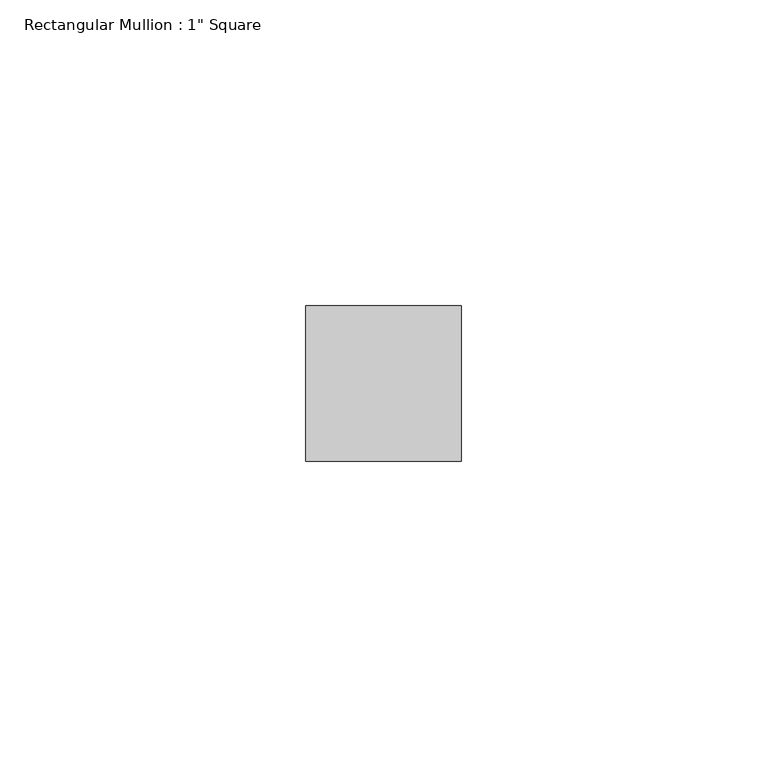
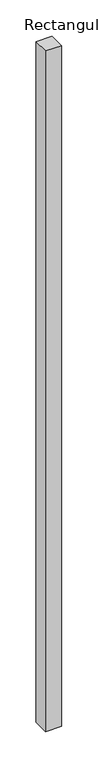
"""IFC4 building model written with IfcOpenShell, lengths in millimetres: member geometry."""

import ifcopenshell
import ifcopenshell.guid

model = None  # the IFC model being written
_history = None  # IfcOwnerHistory: only IFC2X3 demands one
_inside = {}  # id of a spatial element -> (the spatial element, [elements in it])
_under = {}  # id of a project, library or spatial element -> (it, [spatial elements below it])
_declared = {}  # id of a project -> (the project, [libraries it declares])
_typed = {}  # id of a type object -> (the type object, [elements of that type])
_made_of = {}  # id of a material, layer set ... -> (it, [elements and type objects made of it])


def new_model(schema):
    """Start an empty IFC model of exactly this schema.

    Asked for "IFC4X3", IfcOpenShell would pick the latest addendum, in which some entities
    have other attributes; the version numbers below select the first issue.
    IFC2X3 requires an IfcOwnerHistory on every rooted entity: one is made here for all.
    """
    global model, _history
    if schema == "IFC4X3":
        model = ifcopenshell.file(schema_version=(4, 3, 0, 0))
    else:
        model = ifcopenshell.file(schema=schema)
    _inside.clear()
    _under.clear()
    _declared.clear()
    _typed.clear()
    _made_of.clear()
    _history = None
    if model.schema == "IFC2X3":
        org = make("IfcOrganization", Name="unknown")
        user = make(
            "IfcPersonAndOrganization",
            ThePerson=make("IfcPerson", FamilyName="unknown"),
            TheOrganization=org,
        )
        app = make(
            "IfcApplication",
            ApplicationDeveloper=org,
            Version="unknown",
            ApplicationFullName="unknown",
            ApplicationIdentifier="unknown",
        )
        _history = make(
            "IfcOwnerHistory",
            OwningUser=user,
            OwningApplication=app,
            ChangeAction="ADDED",
            CreationDate=0,
        )
    return model


def make(cls, **values):
    """One entity of the class cls with the attributes given. An attribute that is None is left unset."""
    return model.create_entity(
        cls, **{name: value for name, value in values.items() if value is not None}
    )


def rooted(cls, **values):
    """An entity with a GlobalId (a new one), such as an element, a storey or a relation."""
    return make(cls, GlobalId=ifcopenshell.guid.new(), OwnerHistory=_history, **values)


def si_unit(unit_type, name, prefix=None):
    """IfcSIUnit, for example si_unit("LENGTHUNIT", "METRE", prefix="MILLI")."""
    return make("IfcSIUnit", UnitType=unit_type, Prefix=prefix, Name=name)


def assignment(units):
    """IfcUnitAssignment: the units of a project."""
    return None if units is None else make("IfcUnitAssignment", Units=units)


def point(xyz):
    """IfcCartesianPoint."""
    return None if xyz is None else make("IfcCartesianPoint", Coordinates=xyz)


def direction(xyz):
    """IfcDirection."""
    return None if xyz is None else make("IfcDirection", DirectionRatios=xyz)


def frame(location, z_axis=None, x_axis=None):
    """IfcAxis2Placement3D, a coordinate frame: its origin and axes. An axis left out is left unset."""
    return make(
        "IfcAxis2Placement3D",
        Location=point(location),
        Axis=direction(z_axis),
        RefDirection=direction(x_axis),
    )


def origin():
    """The frame at (0, 0, 0) with its axes left unset."""
    return frame((0.0, 0.0, 0.0))


def place(relative_to, where):
    """IfcLocalPlacement: puts the frame where relative to a parent placement (None: the world)."""
    return make(
        "IfcLocalPlacement", PlacementRelTo=relative_to, RelativePlacement=where
    )


def context(
    kind, dimensions, precision=None, world=None, true_north=None, identifier=None
):
    """IfcGeometricRepresentationContext, for example the 3D "Model" context."""
    return make(
        "IfcGeometricRepresentationContext",
        ContextIdentifier=identifier,
        ContextType=kind,
        CoordinateSpaceDimension=dimensions,
        Precision=precision,
        WorldCoordinateSystem=world,
        TrueNorth=true_north,
    )


def project(units=None, contexts=None):
    """IfcProject with its units and contexts."""
    return rooted(
        "IfcProject",
        Name="project",
        RepresentationContexts=contexts,
        UnitsInContext=assignment(units),
    )


def spatial(cls, under=None, at=None, **own):
    """A site, building, storey or space (cls), placed at a placement, below another one or the project."""
    s = rooted(cls, ObjectPlacement=at, **own)
    if under is not None:
        _under.setdefault(under.id(), (under, []))[1].append(s)
    return s


def polyline(points):
    """IfcPolyline through the points."""
    return make("IfcPolyline", Points=[point(p) for p in points])


def outline(outer, holes=None, kind="AREA"):
    """IfcArbitraryClosedProfileDef: a profile drawn as a closed curve; with holes, ...WithVoids."""
    if holes is None:
        return make("IfcArbitraryClosedProfileDef", ProfileType=kind, OuterCurve=outer)
    return make(
        "IfcArbitraryProfileDefWithVoids",
        ProfileType=kind,
        OuterCurve=outer,
        InnerCurves=holes,
    )


def extrude(swept, where, along, depth):
    """IfcExtrudedAreaSolid: the profile swept, set in the frame where, extruded along a direction by depth."""
    return make(
        "IfcExtrudedAreaSolid",
        SweptArea=swept,
        Position=where,
        ExtrudedDirection=direction(along),
        Depth=depth,
    )


def shape(context_of_items, identifier, shape_type, items):
    """IfcShapeRepresentation: the items that make up one representation, for example the "Body"."""
    return make(
        "IfcShapeRepresentation",
        ContextOfItems=context_of_items,
        RepresentationIdentifier=identifier,
        RepresentationType=shape_type,
        Items=items,
    )


def source(mapping_origin, context_of_items, identifier, shape_type, items):
    """IfcRepresentationMap: a shape defined once, which mapped items show again and again."""
    return make(
        "IfcRepresentationMap",
        MappingOrigin=mapping_origin,
        MappedRepresentation=shape(context_of_items, identifier, shape_type, items),
    )


def transform(
    local_origin,
    x_axis=None,
    y_axis=None,
    z_axis=None,
    scale=None,
    scale2=None,
    scale3=None,
    uniform=True,
):
    """IfcCartesianTransformationOperator3D, or its non-uniform kind. x_axis, y_axis, z_axis: its Axis1, 2, 3."""
    if uniform:
        return make(
            "IfcCartesianTransformationOperator3D",
            Axis1=direction(x_axis),
            Axis2=direction(y_axis),
            LocalOrigin=point(local_origin),
            Scale=scale,
            Axis3=direction(z_axis),
        )
    return make(
        "IfcCartesianTransformationOperator3DnonUniform",
        Axis1=direction(x_axis),
        Axis2=direction(y_axis),
        LocalOrigin=point(local_origin),
        Scale=scale,
        Axis3=direction(z_axis),
        Scale2=scale2,
        Scale3=scale3,
    )


def mapped(mapping_source, mapping_target):
    """IfcMappedItem: shows the shape of a source again, moved by a transform."""
    return make(
        "IfcMappedItem", MappingSource=mapping_source, MappingTarget=mapping_target
    )


def made_of(thing, what):
    """Note that an element or type object is made of a material, layer set ...; save() writes the relation."""
    if what is not None:
        _made_of.setdefault(what.id(), (what, []))[1].append(thing)
    return thing


def element(
    cls,
    number,
    at=None,
    inside=None,
    cuts=None,
    type_object=None,
    material=None,
    context=None,
    identifier="Body",
    shape_type=None,
    held_by="IfcProductDefinitionShape",
    body=None,
    shapes=None,
    **own,
):
    """One element of the class cls, such as IfcWall. Its Tag is "e" and its number.

    at: its placement. inside: the storey or other place that contains it. cuts: it is an
    opening in that element (IfcRelVoidsElement). A single representation is given by context,
    identifier, shape_type and body (its items); several are given by shapes. held_by: the class
    of the entity that holds the representations. save() writes the other relations.
    """
    e = rooted(cls, Tag="e%d" % number, ObjectPlacement=at, **own)
    if body is not None:
        shapes = [shape(context, identifier, shape_type, body)]
    if shapes is not None:
        e.Representation = make(held_by, Representations=shapes)
    if inside is not None:
        _inside.setdefault(inside.id(), (inside, []))[1].append(e)
    if cuts is not None:
        rooted(
            "IfcRelVoidsElement", RelatingBuildingElement=cuts, RelatedOpeningElement=e
        )
    if type_object is not None:
        _typed.setdefault(type_object.id(), (type_object, []))[1].append(e)
    return made_of(e, material)


def aggregate(whole, parts):
    """IfcRelAggregates: a whole, such as a stair, and the parts it consists of."""
    return rooted("IfcRelAggregates", RelatingObject=whole, RelatedObjects=parts)


def save(model, path):
    """Write the relations noted so far, then the file.

    IfcRelAggregates (storeys below a building ...), IfcRelContainedInSpatialStructure (elements
    in a storey), IfcRelDefinesByType, IfcRelAssociatesMaterial and IfcRelDeclares: one each for
    every whole, place, type object, material and project.
    """
    for whole, parts in _under.values():
        aggregate(whole, parts)
    for where, things in _inside.values():
        rooted(
            "IfcRelContainedInSpatialStructure",
            RelatedElements=things,
            RelatingStructure=where,
        )
    for kind, things in _typed.values():
        rooted("IfcRelDefinesByType", RelatedObjects=things, RelatingType=kind)
    for what, things in _made_of.values():
        rooted("IfcRelAssociatesMaterial", RelatedObjects=things, RelatingMaterial=what)
    for by, libraries in _declared.values():
        rooted("IfcRelDeclares", RelatingContext=by, RelatedDefinitions=libraries)
    model.write(path)


def member_f69cc8ce(model_context):
    return source(origin(), model_context, "Body", "SweptSolid", [
        extrude(outline(polyline([(12.7, 12.7), (12.7, -12.7), (-12.7, -12.7), (-12.7, 12.7), (12.7, 12.7)])), frame((0.0, 0.0, -1140.9926787), z_axis=(0.0, 0.0, 1.0), x_axis=(1.0, 0.0, 0.0)), (0.0, 0.0, 1.0), 1140.9926787),
    ])


if __name__ == "__main__":
    model = new_model("IFC4")
    model_context = context("Model", 3, world=origin())
    ifc_project = project(units=[si_unit("LENGTHUNIT", "METRE", prefix="MILLI")], contexts=[model_context])
    site = spatial("IfcSite", under=ifc_project)
    building = spatial("IfcBuilding", under=site)
    placement = place(None, origin())
    member_shape = member_f69cc8ce(model_context)
    element("IfcMember", 1, ObjectType="Rectangular Mullion : 1\" Square", at=placement, inside=building, context=model_context, shape_type="MappedRepresentation", body=[
        mapped(member_shape, transform((0.0, 0.0, 0.0), x_axis=(1.0, 0.0, 0.0), y_axis=(0.0, 1.0, 0.0), z_axis=(0.0, 0.0, 1.0))),
    ])
    save(model, "model.ifc")
